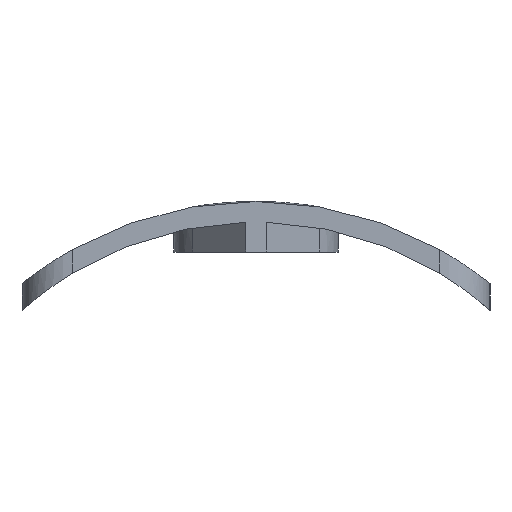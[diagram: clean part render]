
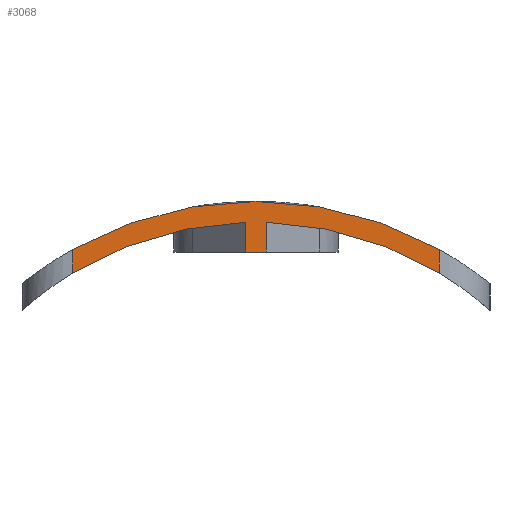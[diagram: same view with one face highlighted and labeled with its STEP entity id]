
A CAD part, left-side view. The second image highlights one B-rep face of the part: STEP entity #3068.
In plain terms, the highlighted planar face has unit normal (-1, 0, 0).
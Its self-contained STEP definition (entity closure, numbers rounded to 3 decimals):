
#22 = VERTEX_POINT('',#23);
#23 = CARTESIAN_POINT('',(96.3,9.8,17.434));
#43 = CYLINDRICAL_SURFACE('',#44,20.);
#44 = AXIS2_PLACEMENT_3D('',#45,#46,#47);
#45 = CARTESIAN_POINT('',(95.,0.,0.));
#46 = DIRECTION('',(1.,0.,0.));
#47 = DIRECTION('',(-0.,0.,1.));
#66 = CYLINDRICAL_SURFACE('',#67,2.7);
#67 = AXIS2_PLACEMENT_3D('',#68,#69,#70);
#68 = CARTESIAN_POINT('',(99.,9.8,5.));
#69 = DIRECTION('',(0.,0.,1.));
#70 = DIRECTION('',(-1.,-0.,0.));
#89 = EDGE_CURVE('',#22,#90,#92,.T.);
#90 = VERTEX_POINT('',#91);
#91 = CARTESIAN_POINT('',(96.3,-9.8,17.434));
#92 = SURFACE_CURVE('',#93,(#98,#105),.PCURVE_S1.);
#93 = CIRCLE('',#94,20.);
#94 = AXIS2_PLACEMENT_3D('',#95,#96,#97);
#95 = CARTESIAN_POINT('',(96.3,0.,0.));
#96 = DIRECTION('',(1.,0.,0.));
#97 = DIRECTION('',(-0.,0.49,0.872));
#98 = PCURVE('',#43,#99);
#99 = DEFINITIONAL_REPRESENTATION('',(#100),#104);
#100 = LINE('',#101,#102);
#101 = CARTESIAN_POINT('',(5.771,1.3));
#102 = VECTOR('',#103,1.);
#103 = DIRECTION('',(1.,0.));
#104 = ( GEOMETRIC_REPRESENTATION_CONTEXT(2) 
PARAMETRIC_REPRESENTATION_CONTEXT() REPRESENTATION_CONTEXT('2D SPACE',''
  ) );
#105 = PCURVE('',#106,#111);
#106 = PLANE('',#107);
#107 = AXIS2_PLACEMENT_3D('',#108,#109,#110);
#108 = CARTESIAN_POINT('',(96.3,-12.5,5.));
#109 = DIRECTION('',(1.,0.,0.));
#110 = DIRECTION('',(0.,0.,1.));
#111 = DEFINITIONAL_REPRESENTATION('',(#112),#116);
#112 = CIRCLE('',#113,20.);
#113 = AXIS2_PLACEMENT_2D('',#114,#115);
#114 = CARTESIAN_POINT('',(-5.,-12.5));
#115 = DIRECTION('',(0.872,-0.49));
#116 = ( GEOMETRIC_REPRESENTATION_CONTEXT(2) 
PARAMETRIC_REPRESENTATION_CONTEXT() REPRESENTATION_CONTEXT('2D SPACE',''
  ) );
#156 = CYLINDRICAL_SURFACE('',#157,2.7);
#157 = AXIS2_PLACEMENT_3D('',#158,#159,#160);
#158 = CARTESIAN_POINT('',(99.,-9.8,5.));
#159 = DIRECTION('',(0.,0.,1.));
#160 = DIRECTION('',(-1.,-0.,0.));
#1158 = PLANE('',#1159);
#1159 = AXIS2_PLACEMENT_3D('',#1160,#1161,#1162);
#1160 = CARTESIAN_POINT('',(102.5,0.,17.3));
#1161 = DIRECTION('',(0.,0.,1.));
#1162 = DIRECTION('',(1.,0.,-0.));
#1206 = VERTEX_POINT('',#1207);
#1207 = CARTESIAN_POINT('',(96.3,0.541,17.3));
#1221 = PLANE('',#1222);
#1222 = AXIS2_PLACEMENT_3D('',#1223,#1224,#1225);
#1223 = CARTESIAN_POINT('',(95.655,0.,17.3));
#1224 = DIRECTION('',(-0.643,0.766,0.));
#1225 = DIRECTION('',(0.766,0.643,0.));
#1233 = EDGE_CURVE('',#1206,#1234,#1236,.T.);
#1234 = VERTEX_POINT('',#1235);
#1235 = CARTESIAN_POINT('',(96.3,-0.541,17.3));
#1236 = SURFACE_CURVE('',#1237,(#1241,#1248),.PCURVE_S1.);
#1237 = LINE('',#1238,#1239);
#1238 = CARTESIAN_POINT('',(96.3,-10.,17.3));
#1239 = VECTOR('',#1240,1.);
#1240 = DIRECTION('',(0.,-1.,0.));
#1241 = PCURVE('',#1158,#1242);
#1242 = DEFINITIONAL_REPRESENTATION('',(#1243),#1247);
#1243 = LINE('',#1244,#1245);
#1244 = CARTESIAN_POINT('',(-6.2,-10.));
#1245 = VECTOR('',#1246,1.);
#1246 = DIRECTION('',(0.,-1.));
#1247 = ( GEOMETRIC_REPRESENTATION_CONTEXT(2) 
PARAMETRIC_REPRESENTATION_CONTEXT() REPRESENTATION_CONTEXT('2D SPACE',''
  ) );
#1248 = PCURVE('',#106,#1249);
#1249 = DEFINITIONAL_REPRESENTATION('',(#1250),#1254);
#1250 = LINE('',#1251,#1252);
#1251 = CARTESIAN_POINT('',(12.3,-2.5));
#1252 = VECTOR('',#1253,1.);
#1253 = DIRECTION('',(0.,1.));
#1254 = ( GEOMETRIC_REPRESENTATION_CONTEXT(2) 
PARAMETRIC_REPRESENTATION_CONTEXT() REPRESENTATION_CONTEXT('2D SPACE',''
  ) );
#1270 = PLANE('',#1271);
#1271 = AXIS2_PLACEMENT_3D('',#1272,#1273,#1274);
#1272 = CARTESIAN_POINT('',(99.672,-3.371,17.3));
#1273 = DIRECTION('',(-0.643,-0.766,0.));
#1274 = DIRECTION('',(-0.766,0.643,0.));
#1312 = VERTEX_POINT('',#1313);
#1313 = CARTESIAN_POINT('',(96.3,-0.541,18.892));
#1328 = CYLINDRICAL_SURFACE('',#1329,18.9);
#1329 = AXIS2_PLACEMENT_3D('',#1330,#1331,#1332);
#1330 = CARTESIAN_POINT('',(94.,0.,0.));
#1331 = DIRECTION('',(1.,0.,0.));
#1332 = DIRECTION('',(-0.,0.,1.));
#1343 = EDGE_CURVE('',#1234,#1312,#1344,.T.);
#1344 = SURFACE_CURVE('',#1345,(#1349,#1355),.PCURVE_S1.);
#1345 = LINE('',#1346,#1347);
#1346 = CARTESIAN_POINT('',(96.3,-0.541,8.65));
#1347 = VECTOR('',#1348,1.);
#1348 = DIRECTION('',(0.,0.,1.));
#1349 = PCURVE('',#1270,#1350);
#1350 = DEFINITIONAL_REPRESENTATION('',(#1351),#1354);
#1351 = B_SPLINE_CURVE_WITH_KNOTS('',1,(#1352,#1353),.UNSPECIFIED.,.F.,
  .F.,(2,2),(8.65,10.55),.PIECEWISE_BEZIER_KNOTS.);
#1352 = CARTESIAN_POINT('',(4.401,0.));
#1353 = CARTESIAN_POINT('',(4.401,-1.9));
#1354 = ( GEOMETRIC_REPRESENTATION_CONTEXT(2) 
PARAMETRIC_REPRESENTATION_CONTEXT() REPRESENTATION_CONTEXT('2D SPACE',''
  ) );
#1355 = PCURVE('',#106,#1356);
#1356 = DEFINITIONAL_REPRESENTATION('',(#1357),#1361);
#1357 = LINE('',#1358,#1359);
#1358 = CARTESIAN_POINT('',(3.65,-11.959));
#1359 = VECTOR('',#1360,1.);
#1360 = DIRECTION('',(1.,0.));
#1361 = ( GEOMETRIC_REPRESENTATION_CONTEXT(2) 
PARAMETRIC_REPRESENTATION_CONTEXT() REPRESENTATION_CONTEXT('2D SPACE',''
  ) );
#1625 = EDGE_CURVE('',#1312,#1626,#1628,.T.);
#1626 = VERTEX_POINT('',#1627);
#1627 = CARTESIAN_POINT('',(96.3,-9.8,16.161));
#1628 = SURFACE_CURVE('',#1629,(#1634,#1640),.PCURVE_S1.);
#1629 = CIRCLE('',#1630,18.9);
#1630 = AXIS2_PLACEMENT_3D('',#1631,#1632,#1633);
#1631 = CARTESIAN_POINT('',(96.3,0.,0.));
#1632 = DIRECTION('',(1.,0.,0.));
#1633 = DIRECTION('',(-0.,0.,1.));
#1634 = PCURVE('',#1328,#1635);
#1635 = DEFINITIONAL_REPRESENTATION('',(#1636),#1639);
#1636 = B_SPLINE_CURVE_WITH_KNOTS('',1,(#1637,#1638),.UNSPECIFIED.,.F.,
  .F.,(2,2),(0.029,0.545),
  .PIECEWISE_BEZIER_KNOTS.);
#1637 = CARTESIAN_POINT('',(6.312,2.3));
#1638 = CARTESIAN_POINT('',(6.828,2.3));
#1639 = ( GEOMETRIC_REPRESENTATION_CONTEXT(2) 
PARAMETRIC_REPRESENTATION_CONTEXT() REPRESENTATION_CONTEXT('2D SPACE',''
  ) );
#1640 = PCURVE('',#106,#1641);
#1641 = DEFINITIONAL_REPRESENTATION('',(#1642),#1646);
#1642 = CIRCLE('',#1643,18.9);
#1643 = AXIS2_PLACEMENT_2D('',#1644,#1645);
#1644 = CARTESIAN_POINT('',(-5.,-12.5));
#1645 = DIRECTION('',(1.,0.));
#1646 = ( GEOMETRIC_REPRESENTATION_CONTEXT(2) 
PARAMETRIC_REPRESENTATION_CONTEXT() REPRESENTATION_CONTEXT('2D SPACE',''
  ) );
#2049 = VERTEX_POINT('',#2050);
#2050 = CARTESIAN_POINT('',(96.3,9.8,16.161));
#2158 = EDGE_CURVE('',#2049,#2159,#2161,.T.);
#2159 = VERTEX_POINT('',#2160);
#2160 = CARTESIAN_POINT('',(96.3,0.541,18.892));
#2161 = SURFACE_CURVE('',#2162,(#2167,#2173),.PCURVE_S1.);
#2162 = CIRCLE('',#2163,18.9);
#2163 = AXIS2_PLACEMENT_3D('',#2164,#2165,#2166);
#2164 = CARTESIAN_POINT('',(96.3,0.,0.));
#2165 = DIRECTION('',(1.,0.,0.));
#2166 = DIRECTION('',(-0.,0.,1.));
#2167 = PCURVE('',#1328,#2168);
#2168 = DEFINITIONAL_REPRESENTATION('',(#2169),#2172);
#2169 = B_SPLINE_CURVE_WITH_KNOTS('',1,(#2170,#2171),.UNSPECIFIED.,.F.,
  .F.,(2,2),(5.738,6.255),.PIECEWISE_BEZIER_KNOTS.);
#2170 = CARTESIAN_POINT('',(5.738,2.3));
#2171 = CARTESIAN_POINT('',(6.255,2.3));
#2172 = ( GEOMETRIC_REPRESENTATION_CONTEXT(2) 
PARAMETRIC_REPRESENTATION_CONTEXT() REPRESENTATION_CONTEXT('2D SPACE',''
  ) );
#2173 = PCURVE('',#106,#2174);
#2174 = DEFINITIONAL_REPRESENTATION('',(#2175),#2179);
#2175 = CIRCLE('',#2176,18.9);
#2176 = AXIS2_PLACEMENT_2D('',#2177,#2178);
#2177 = CARTESIAN_POINT('',(-5.,-12.5));
#2178 = DIRECTION('',(1.,0.));
#2179 = ( GEOMETRIC_REPRESENTATION_CONTEXT(2) 
PARAMETRIC_REPRESENTATION_CONTEXT() REPRESENTATION_CONTEXT('2D SPACE',''
  ) );
#2812 = EDGE_CURVE('',#2159,#1206,#2813,.T.);
#2813 = SURFACE_CURVE('',#2814,(#2818,#2824),.PCURVE_S1.);
#2814 = LINE('',#2815,#2816);
#2815 = CARTESIAN_POINT('',(96.3,0.541,8.65));
#2816 = VECTOR('',#2817,1.);
#2817 = DIRECTION('',(-0.,0.,-1.));
#2818 = PCURVE('',#1221,#2819);
#2819 = DEFINITIONAL_REPRESENTATION('',(#2820),#2823);
#2820 = B_SPLINE_CURVE_WITH_KNOTS('',1,(#2821,#2822),.UNSPECIFIED.,.F.,
  .F.,(2,2),(-10.55,-8.65),.PIECEWISE_BEZIER_KNOTS.);
#2821 = CARTESIAN_POINT('',(0.842,-1.9));
#2822 = CARTESIAN_POINT('',(0.842,0.));
#2823 = ( GEOMETRIC_REPRESENTATION_CONTEXT(2) 
PARAMETRIC_REPRESENTATION_CONTEXT() REPRESENTATION_CONTEXT('2D SPACE',''
  ) );
#2824 = PCURVE('',#106,#2825);
#2825 = DEFINITIONAL_REPRESENTATION('',(#2826),#2830);
#2826 = LINE('',#2827,#2828);
#2827 = CARTESIAN_POINT('',(3.65,-13.041));
#2828 = VECTOR('',#2829,1.);
#2829 = DIRECTION('',(-1.,-0.));
#2830 = ( GEOMETRIC_REPRESENTATION_CONTEXT(2) 
PARAMETRIC_REPRESENTATION_CONTEXT() REPRESENTATION_CONTEXT('2D SPACE',''
  ) );
#3045 = EDGE_CURVE('',#1626,#90,#3046,.T.);
#3046 = SURFACE_CURVE('',#3047,(#3051,#3058),.PCURVE_S1.);
#3047 = LINE('',#3048,#3049);
#3048 = CARTESIAN_POINT('',(96.3,-9.8,5.));
#3049 = VECTOR('',#3050,1.);
#3050 = DIRECTION('',(0.,0.,1.));
#3051 = PCURVE('',#156,#3052);
#3052 = DEFINITIONAL_REPRESENTATION('',(#3053),#3057);
#3053 = LINE('',#3054,#3055);
#3054 = CARTESIAN_POINT('',(0.,0.));
#3055 = VECTOR('',#3056,1.);
#3056 = DIRECTION('',(0.,1.));
#3057 = ( GEOMETRIC_REPRESENTATION_CONTEXT(2) 
PARAMETRIC_REPRESENTATION_CONTEXT() REPRESENTATION_CONTEXT('2D SPACE',''
  ) );
#3058 = PCURVE('',#106,#3059);
#3059 = DEFINITIONAL_REPRESENTATION('',(#3060),#3064);
#3060 = LINE('',#3061,#3062);
#3061 = CARTESIAN_POINT('',(0.,-2.7));
#3062 = VECTOR('',#3063,1.);
#3063 = DIRECTION('',(1.,0.));
#3064 = ( GEOMETRIC_REPRESENTATION_CONTEXT(2) 
PARAMETRIC_REPRESENTATION_CONTEXT() REPRESENTATION_CONTEXT('2D SPACE',''
  ) );
#3068 = ADVANCED_FACE('',(#3069),#106,.F.);
#3069 = FACE_BOUND('',#3070,.F.);
#3070 = EDGE_LOOP('',(#3071,#3072,#3073,#3074,#3075,#3076,#3077,#3078));
#3071 = ORIENTED_EDGE('',*,*,#89,.T.);
#3072 = ORIENTED_EDGE('',*,*,#3045,.F.);
#3073 = ORIENTED_EDGE('',*,*,#1625,.F.);
#3074 = ORIENTED_EDGE('',*,*,#1343,.F.);
#3075 = ORIENTED_EDGE('',*,*,#1233,.F.);
#3076 = ORIENTED_EDGE('',*,*,#2812,.F.);
#3077 = ORIENTED_EDGE('',*,*,#2158,.F.);
#3078 = ORIENTED_EDGE('',*,*,#3079,.T.);
#3079 = EDGE_CURVE('',#2049,#22,#3080,.T.);
#3080 = SURFACE_CURVE('',#3081,(#3085,#3092),.PCURVE_S1.);
#3081 = LINE('',#3082,#3083);
#3082 = CARTESIAN_POINT('',(96.3,9.8,5.));
#3083 = VECTOR('',#3084,1.);
#3084 = DIRECTION('',(0.,0.,1.));
#3085 = PCURVE('',#106,#3086);
#3086 = DEFINITIONAL_REPRESENTATION('',(#3087),#3091);
#3087 = LINE('',#3088,#3089);
#3088 = CARTESIAN_POINT('',(0.,-22.3));
#3089 = VECTOR('',#3090,1.);
#3090 = DIRECTION('',(1.,0.));
#3091 = ( GEOMETRIC_REPRESENTATION_CONTEXT(2) 
PARAMETRIC_REPRESENTATION_CONTEXT() REPRESENTATION_CONTEXT('2D SPACE',''
  ) );
#3092 = PCURVE('',#66,#3093);
#3093 = DEFINITIONAL_REPRESENTATION('',(#3094),#3098);
#3094 = LINE('',#3095,#3096);
#3095 = CARTESIAN_POINT('',(-0.,0.));
#3096 = VECTOR('',#3097,1.);
#3097 = DIRECTION('',(-0.,1.));
#3098 = ( GEOMETRIC_REPRESENTATION_CONTEXT(2) 
PARAMETRIC_REPRESENTATION_CONTEXT() REPRESENTATION_CONTEXT('2D SPACE',''
  ) );
